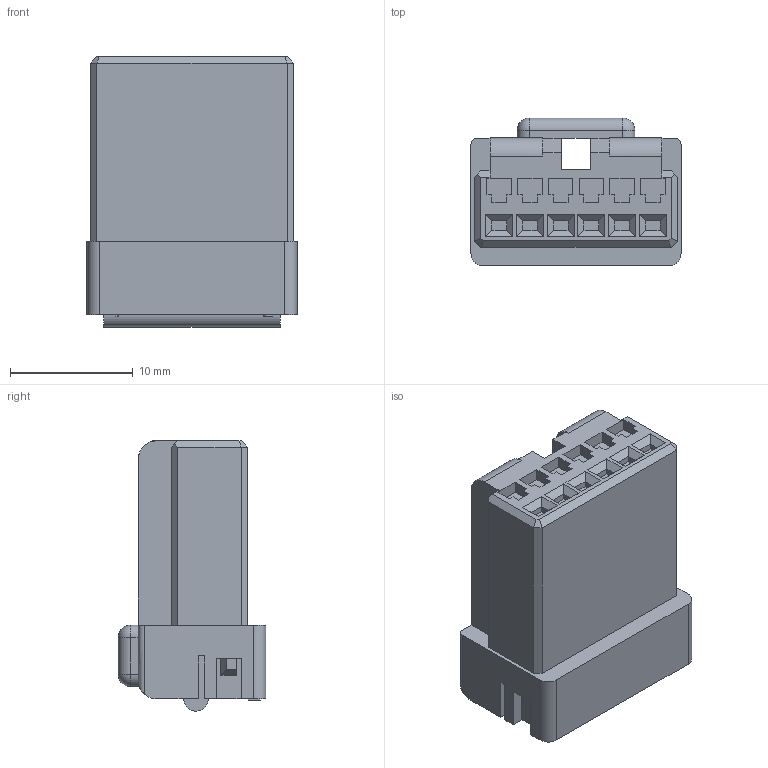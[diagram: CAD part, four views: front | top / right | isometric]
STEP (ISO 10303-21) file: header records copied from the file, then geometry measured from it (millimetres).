
FILE_DESCRIPTION((''),'2;1');
FILE_NAME('C-776204-2','2008-09-24T',('workeradm'),('Tyco Electronics Corporation'),'PRO/ENGINEER BY PARAMETRIC TECHNOLOGY CORPORATION, 2005450','PRO/ENGINEER BY PARAMETRIC TECHNOLOGY CORPORATION, 2005450','');
FILE_SCHEMA(('CONFIG_CONTROL_DESIGN', 'GEOMETRIC_VALIDATION_PROPERTIES_MIM'));
Length unit declared in the file: millimetre
Products named in the file (1): C-776204-2
Bounding box: 17.1 x 12.04 x 22 mm (x, y, z)
Volume: 2618.3 mm3; surface area: 2067.1 mm2
Topology: 1 solids, 1 shells, 293 faces, 790 edges, 512 vertices
Faces by surface type: plane 270, cylinder 19, sphere 4
Entity records: 9119 total; most frequent: CARTESIAN_POINT 1622, ORIENTED_EDGE 1580, DIRECTION 1408, EDGE_CURVE 790, VECTOR 750, LINE 750, VERTEX_POINT 512, AXIS2_PLACEMENT_3D 329
